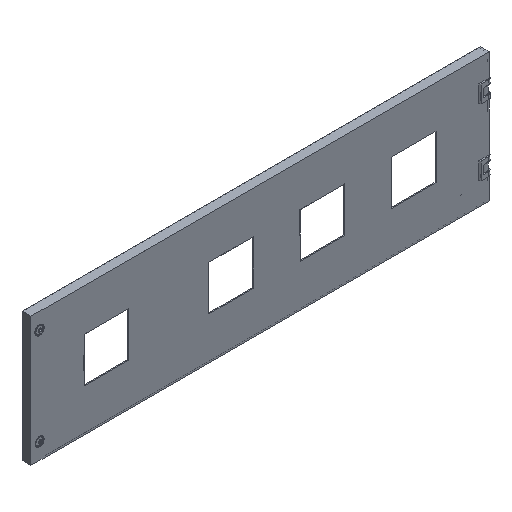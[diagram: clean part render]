
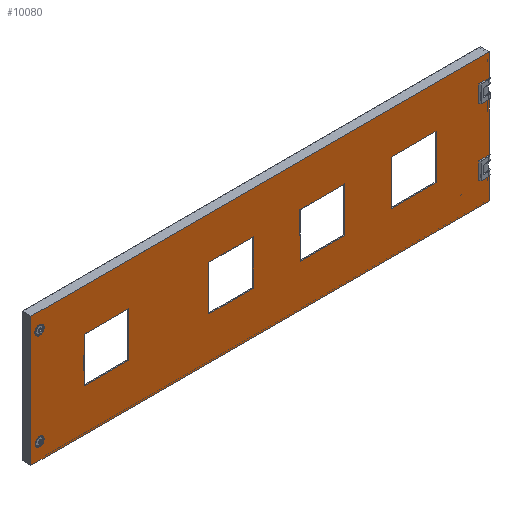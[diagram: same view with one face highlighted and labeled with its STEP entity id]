
A CAD part, isometric view. The second image highlights one B-rep face of the part: STEP entity #10080.
In plain terms, the highlighted planar face has unit normal (0, -1, 0).
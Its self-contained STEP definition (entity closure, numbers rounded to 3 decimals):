
#225=PLANE('',#10570);
#637=LINE('',#13700,#1423);
#648=LINE('',#13724,#1434);
#649=LINE('',#13726,#1435);
#683=LINE('',#13897,#1469);
#687=LINE('',#13905,#1473);
#688=LINE('',#13907,#1474);
#691=LINE('',#13913,#1477);
#696=LINE('',#13923,#1482);
#699=LINE('',#13930,#1485);
#702=LINE('',#13936,#1488);
#705=LINE('',#13942,#1491);
#708=LINE('',#13947,#1494);
#711=LINE('',#13954,#1497);
#714=LINE('',#13960,#1500);
#717=LINE('',#13966,#1503);
#720=LINE('',#13971,#1506);
#723=LINE('',#13978,#1509);
#726=LINE('',#13984,#1512);
#729=LINE('',#13990,#1515);
#732=LINE('',#13995,#1518);
#735=LINE('',#14002,#1521);
#738=LINE('',#14008,#1524);
#741=LINE('',#14014,#1527);
#744=LINE('',#14019,#1530);
#745=LINE('',#14025,#1531);
#746=LINE('',#14027,#1532);
#747=LINE('',#14029,#1533);
#748=LINE('',#14031,#1534);
#1423=VECTOR('',#11574,1000.);
#1434=VECTOR('',#11597,1000.);
#1435=VECTOR('',#11600,1000.);
#1469=VECTOR('',#11712,1000.);
#1473=VECTOR('',#11718,1000.);
#1474=VECTOR('',#11721,1000.);
#1477=VECTOR('',#11726,1000.);
#1482=VECTOR('',#11733,1000.);
#1485=VECTOR('',#11738,1000.);
#1488=VECTOR('',#11743,1000.);
#1491=VECTOR('',#11748,1000.);
#1494=VECTOR('',#11753,1000.);
#1497=VECTOR('',#11758,1000.);
#1500=VECTOR('',#11763,1000.);
#1503=VECTOR('',#11768,1000.);
#1506=VECTOR('',#11773,1000.);
#1509=VECTOR('',#11778,1000.);
#1512=VECTOR('',#11783,1000.);
#1515=VECTOR('',#11788,1000.);
#1518=VECTOR('',#11793,1000.);
#1521=VECTOR('',#11798,1000.);
#1524=VECTOR('',#11803,1000.);
#1527=VECTOR('',#11808,1000.);
#1530=VECTOR('',#11813,1000.);
#1531=VECTOR('',#11820,1000.);
#1532=VECTOR('',#11821,1000.);
#1533=VECTOR('',#11822,1000.);
#1534=VECTOR('',#11823,1000.);
#2791=ORIENTED_EDGE('',*,*,#4475,.F.);
#2792=ORIENTED_EDGE('',*,*,#4472,.F.);
#2793=ORIENTED_EDGE('',*,*,#4469,.F.);
#2794=ORIENTED_EDGE('',*,*,#4466,.F.);
#2795=ORIENTED_EDGE('',*,*,#4463,.F.);
#2796=ORIENTED_EDGE('',*,*,#4460,.F.);
#2797=ORIENTED_EDGE('',*,*,#4457,.F.);
#2798=ORIENTED_EDGE('',*,*,#4454,.F.);
#2799=ORIENTED_EDGE('',*,*,#4451,.F.);
#2800=ORIENTED_EDGE('',*,*,#4448,.F.);
#2801=ORIENTED_EDGE('',*,*,#4445,.F.);
#2802=ORIENTED_EDGE('',*,*,#4442,.F.);
#2803=ORIENTED_EDGE('',*,*,#4439,.F.);
#2804=ORIENTED_EDGE('',*,*,#4436,.F.);
#2805=ORIENTED_EDGE('',*,*,#4433,.F.);
#2806=ORIENTED_EDGE('',*,*,#4430,.F.);
#2807=ORIENTED_EDGE('',*,*,#4476,.T.);
#2808=ORIENTED_EDGE('',*,*,#4477,.T.);
#2809=ORIENTED_EDGE('',*,*,#4478,.T.);
#2810=ORIENTED_EDGE('',*,*,#4479,.F.);
#2811=ORIENTED_EDGE('',*,*,#4480,.T.);
#2812=ORIENTED_EDGE('',*,*,#4481,.T.);
#2813=ORIENTED_EDGE('',*,*,#4427,.T.);
#2814=ORIENTED_EDGE('',*,*,#4422,.T.);
#2815=ORIENTED_EDGE('',*,*,#4419,.T.);
#2816=ORIENTED_EDGE('',*,*,#4418,.T.);
#2817=ORIENTED_EDGE('',*,*,#4414,.T.);
#2818=ORIENTED_EDGE('',*,*,#4344,.F.);
#2819=ORIENTED_EDGE('',*,*,#4356,.T.);
#2820=ORIENTED_EDGE('',*,*,#4357,.T.);
#4344=EDGE_CURVE('',#5272,#5270,#637,.T.);
#4356=EDGE_CURVE('',#5272,#5279,#648,.T.);
#4357=EDGE_CURVE('',#5279,#5280,#649,.T.);
#4414=EDGE_CURVE('',#5317,#5270,#683,.T.);
#4418=EDGE_CURVE('',#5319,#5317,#687,.T.);
#4419=EDGE_CURVE('',#5320,#5319,#688,.T.);
#4422=EDGE_CURVE('',#5322,#5320,#691,.T.);
#4427=EDGE_CURVE('',#5325,#5322,#696,.T.);
#4430=EDGE_CURVE('',#5328,#5329,#699,.T.);
#4433=EDGE_CURVE('',#5329,#5331,#702,.T.);
#4436=EDGE_CURVE('',#5331,#5333,#705,.T.);
#4439=EDGE_CURVE('',#5333,#5328,#708,.T.);
#4442=EDGE_CURVE('',#5336,#5337,#711,.T.);
#4445=EDGE_CURVE('',#5337,#5339,#714,.T.);
#4448=EDGE_CURVE('',#5339,#5341,#717,.T.);
#4451=EDGE_CURVE('',#5341,#5336,#720,.T.);
#4454=EDGE_CURVE('',#5344,#5345,#723,.T.);
#4457=EDGE_CURVE('',#5345,#5347,#726,.T.);
#4460=EDGE_CURVE('',#5347,#5349,#729,.T.);
#4463=EDGE_CURVE('',#5349,#5344,#732,.T.);
#4466=EDGE_CURVE('',#5352,#5353,#735,.T.);
#4469=EDGE_CURVE('',#5353,#5355,#738,.T.);
#4472=EDGE_CURVE('',#5355,#5357,#741,.T.);
#4475=EDGE_CURVE('',#5357,#5352,#744,.T.);
#4476=EDGE_CURVE('',#5358,#5358,#5812,.T.);
#4477=EDGE_CURVE('',#5359,#5359,#5813,.T.);
#4478=EDGE_CURVE('',#5280,#5360,#745,.T.);
#4479=EDGE_CURVE('',#5361,#5360,#746,.T.);
#4480=EDGE_CURVE('',#5361,#5362,#747,.T.);
#4481=EDGE_CURVE('',#5362,#5325,#748,.T.);
#5270=VERTEX_POINT('',#13695);
#5272=VERTEX_POINT('',#13699);
#5279=VERTEX_POINT('',#13723);
#5280=VERTEX_POINT('',#13727);
#5317=VERTEX_POINT('',#13898);
#5319=VERTEX_POINT('',#13903);
#5320=VERTEX_POINT('',#13908);
#5322=VERTEX_POINT('',#13914);
#5325=VERTEX_POINT('',#13921);
#5328=VERTEX_POINT('',#13929);
#5329=VERTEX_POINT('',#13931);
#5331=VERTEX_POINT('',#13937);
#5333=VERTEX_POINT('',#13943);
#5336=VERTEX_POINT('',#13953);
#5337=VERTEX_POINT('',#13955);
#5339=VERTEX_POINT('',#13961);
#5341=VERTEX_POINT('',#13967);
#5344=VERTEX_POINT('',#13977);
#5345=VERTEX_POINT('',#13979);
#5347=VERTEX_POINT('',#13985);
#5349=VERTEX_POINT('',#13991);
#5352=VERTEX_POINT('',#14001);
#5353=VERTEX_POINT('',#14003);
#5355=VERTEX_POINT('',#14009);
#5357=VERTEX_POINT('',#14015);
#5358=VERTEX_POINT('',#14022);
#5359=VERTEX_POINT('',#14024);
#5360=VERTEX_POINT('',#14026);
#5361=VERTEX_POINT('',#14028);
#5362=VERTEX_POINT('',#14030);
#5812=CIRCLE('',#10571,6.932);
#5813=CIRCLE('',#10572,6.932);
#6152=EDGE_LOOP('',(#2791,#2792,#2793,#2794));
#6153=EDGE_LOOP('',(#2795,#2796,#2797,#2798));
#6154=EDGE_LOOP('',(#2799,#2800,#2801,#2802));
#6155=EDGE_LOOP('',(#2803,#2804,#2805,#2806));
#6156=EDGE_LOOP('',(#2807));
#6157=EDGE_LOOP('',(#2808));
#6158=EDGE_LOOP('',(#2809,#2810,#2811,#2812,#2813,#2814,#2815,#2816,#2817,
#2818,#2819,#2820));
#6648=FACE_BOUND('',#6152,.T.);
#6649=FACE_BOUND('',#6153,.T.);
#6650=FACE_BOUND('',#6154,.T.);
#6651=FACE_BOUND('',#6155,.T.);
#6652=FACE_BOUND('',#6156,.T.);
#6653=FACE_BOUND('',#6157,.T.);
#6654=FACE_BOUND('',#6158,.T.);
#10080=ADVANCED_FACE('',(#6648,#6649,#6650,#6651,#6652,#6653,#6654),#225,
 .F.);
#10570=AXIS2_PLACEMENT_3D('',#14020,#11814,#11815);
#10571=AXIS2_PLACEMENT_3D('',#14021,#11816,#11817);
#10572=AXIS2_PLACEMENT_3D('',#14023,#11818,#11819);
#11574=DIRECTION('',(1.,0.,0.));
#11597=DIRECTION('',(0.,0.,1.));
#11600=DIRECTION('',(1.,0.,0.));
#11712=DIRECTION('',(0.,0.,1.));
#11718=DIRECTION('',(1.,0.,0.));
#11721=DIRECTION('',(0.,0.,-1.));
#11726=DIRECTION('',(-1.,0.,0.));
#11733=DIRECTION('',(0.,0.,1.));
#11738=DIRECTION('',(0.,0.,1.));
#11743=DIRECTION('',(-1.,0.,0.));
#11748=DIRECTION('',(0.,0.,-1.));
#11753=DIRECTION('',(1.,0.,0.));
#11758=DIRECTION('',(0.,0.,1.));
#11763=DIRECTION('',(-1.,0.,0.));
#11768=DIRECTION('',(0.,0.,-1.));
#11773=DIRECTION('',(1.,0.,0.));
#11778=DIRECTION('',(0.,0.,1.));
#11783=DIRECTION('',(-1.,0.,0.));
#11788=DIRECTION('',(0.,0.,-1.));
#11793=DIRECTION('',(1.,0.,0.));
#11798=DIRECTION('',(0.,0.,1.));
#11803=DIRECTION('',(-1.,0.,0.));
#11808=DIRECTION('',(0.,0.,-1.));
#11813=DIRECTION('',(1.,0.,0.));
#11814=DIRECTION('',(0.,1.,0.));
#11815=DIRECTION('',(0.,0.,1.));
#11816=DIRECTION('',(0.,1.,0.));
#11817=DIRECTION('',(0.,0.,1.));
#11818=DIRECTION('',(0.,1.,0.));
#11819=DIRECTION('',(0.,0.,1.));
#11820=DIRECTION('',(0.,0.,1.));
#11821=DIRECTION('',(1.,0.,0.));
#11822=DIRECTION('',(0.,0.,1.));
#11823=DIRECTION('',(1.,0.,0.));
#13695=CARTESIAN_POINT('',(344.,0.,-63.));
#13699=CARTESIAN_POINT('',(328.,0.,-63.));
#13700=CARTESIAN_POINT('',(0.,0.,-63.));
#13723=CARTESIAN_POINT('',(328.,0.,-37.));
#13724=CARTESIAN_POINT('',(328.,0.,0.));
#13726=CARTESIAN_POINT('',(0.,0.,-37.));
#13727=CARTESIAN_POINT('',(344.,0.,-37.));
#13897=CARTESIAN_POINT('',(344.,0.,-670.739));
#13898=CARTESIAN_POINT('',(344.,0.,-97.));
#13903=CARTESIAN_POINT('',(-344.,0.,-97.));
#13905=CARTESIAN_POINT('',(-2399.739,0.,-97.));
#13907=CARTESIAN_POINT('',(-344.,0.,670.739));
#13908=CARTESIAN_POINT('',(-344.,0.,97.));
#13913=CARTESIAN_POINT('',(2399.739,0.,97.));
#13914=CARTESIAN_POINT('',(344.,0.,97.));
#13921=CARTESIAN_POINT('',(344.,0.,63.));
#13923=CARTESIAN_POINT('',(344.,0.,-670.739));
#13929=CARTESIAN_POINT('',(-10.,0.,-33.5));
#13930=CARTESIAN_POINT('',(-10.,0.,-33.5));
#13931=CARTESIAN_POINT('',(-10.,0.,33.5));
#13936=CARTESIAN_POINT('',(-10.,0.,33.5));
#13937=CARTESIAN_POINT('',(-77.,0.,33.5));
#13942=CARTESIAN_POINT('',(-77.,0.,33.5));
#13943=CARTESIAN_POINT('',(-77.,0.,-33.5));
#13947=CARTESIAN_POINT('',(-77.,0.,-33.5));
#13953=CARTESIAN_POINT('',(-197.,0.,-33.5));
#13954=CARTESIAN_POINT('',(-197.,0.,-33.5));
#13955=CARTESIAN_POINT('',(-197.,0.,33.5));
#13960=CARTESIAN_POINT('',(-197.,0.,33.5));
#13961=CARTESIAN_POINT('',(-264.,0.,33.5));
#13966=CARTESIAN_POINT('',(-264.,0.,33.5));
#13967=CARTESIAN_POINT('',(-264.,0.,-33.5));
#13971=CARTESIAN_POINT('',(-264.,0.,-33.5));
#13977=CARTESIAN_POINT('',(127.,0.,-33.5));
#13978=CARTESIAN_POINT('',(127.,0.,-33.5));
#13979=CARTESIAN_POINT('',(127.,0.,33.5));
#13984=CARTESIAN_POINT('',(127.,0.,33.5));
#13985=CARTESIAN_POINT('',(60.,0.,33.5));
#13990=CARTESIAN_POINT('',(60.,0.,33.5));
#13991=CARTESIAN_POINT('',(60.,0.,-33.5));
#13995=CARTESIAN_POINT('',(60.,0.,-33.5));
#14001=CARTESIAN_POINT('',(264.,0.,-33.5));
#14002=CARTESIAN_POINT('',(264.,0.,-33.5));
#14003=CARTESIAN_POINT('',(264.,0.,33.5));
#14008=CARTESIAN_POINT('',(264.,0.,33.5));
#14009=CARTESIAN_POINT('',(197.,0.,33.5));
#14014=CARTESIAN_POINT('',(197.,0.,33.5));
#14015=CARTESIAN_POINT('',(197.,0.,-33.5));
#14019=CARTESIAN_POINT('',(197.,0.,-33.5));
#14020=CARTESIAN_POINT('',(0.,0.,0.));
#14021=CARTESIAN_POINT('',(-331.,0.,-72.5));
#14022=CARTESIAN_POINT('',(-331.,0.,-65.568));
#14023=CARTESIAN_POINT('',(-331.,0.,72.5));
#14024=CARTESIAN_POINT('',(-331.,0.,79.432));
#14025=CARTESIAN_POINT('',(344.,0.,-670.739));
#14026=CARTESIAN_POINT('',(344.,0.,37.));
#14027=CARTESIAN_POINT('',(0.,0.,37.));
#14028=CARTESIAN_POINT('',(328.,0.,37.));
#14029=CARTESIAN_POINT('',(328.,0.,0.));
#14030=CARTESIAN_POINT('',(328.,0.,63.));
#14031=CARTESIAN_POINT('',(0.,0.,63.));
